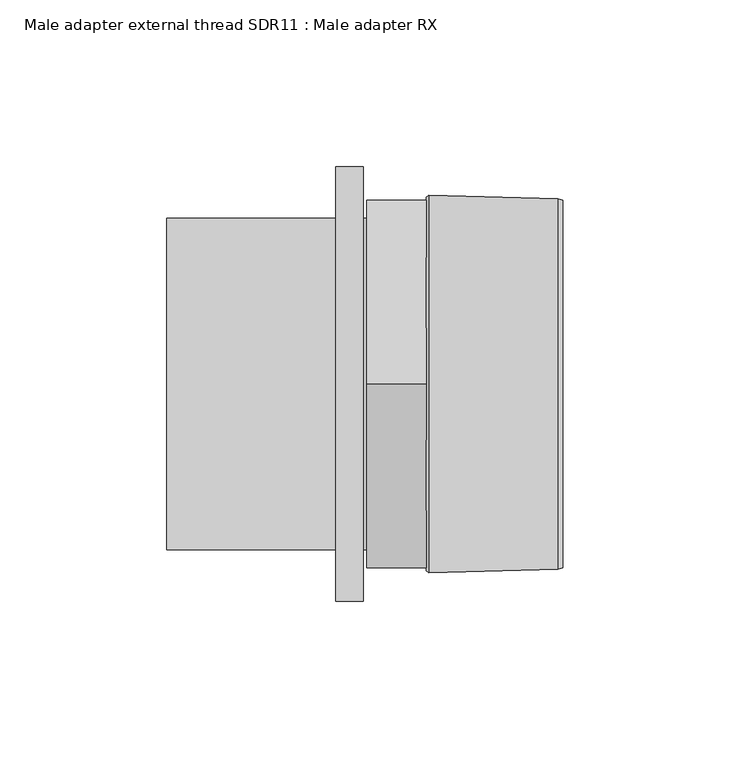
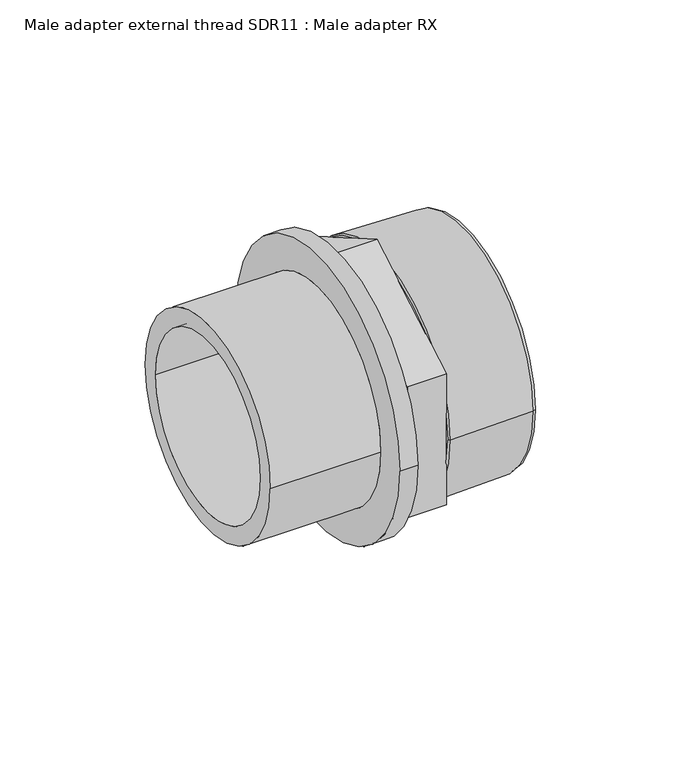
"""IFC4 building model written with IfcOpenShell, lengths in millimetres: pipe fitting geometry, Male adapter external thread SDR11 : Male adapter RX."""

import ifcopenshell
import ifcopenshell.guid

model = None  # the IFC model being written
_history = None  # IfcOwnerHistory: only IFC2X3 demands one
_inside = {}  # id of a spatial element -> (the spatial element, [elements in it])
_under = {}  # id of a project, library or spatial element -> (it, [spatial elements below it])
_declared = {}  # id of a project -> (the project, [libraries it declares])
_typed = {}  # id of a type object -> (the type object, [elements of that type])
_made_of = {}  # id of a material, layer set ... -> (it, [elements and type objects made of it])


def new_model(schema):
    """Start an empty IFC model of exactly this schema.

    Asked for "IFC4X3", IfcOpenShell would pick the latest addendum, in which some entities
    have other attributes; the version numbers below select the first issue.
    IFC2X3 requires an IfcOwnerHistory on every rooted entity: one is made here for all.
    """
    global model, _history
    if schema == "IFC4X3":
        model = ifcopenshell.file(schema_version=(4, 3, 0, 0))
    else:
        model = ifcopenshell.file(schema=schema)
    _inside.clear()
    _under.clear()
    _declared.clear()
    _typed.clear()
    _made_of.clear()
    _history = None
    if model.schema == "IFC2X3":
        org = make("IfcOrganization", Name="unknown")
        user = make(
            "IfcPersonAndOrganization",
            ThePerson=make("IfcPerson", FamilyName="unknown"),
            TheOrganization=org,
        )
        app = make(
            "IfcApplication",
            ApplicationDeveloper=org,
            Version="unknown",
            ApplicationFullName="unknown",
            ApplicationIdentifier="unknown",
        )
        _history = make(
            "IfcOwnerHistory",
            OwningUser=user,
            OwningApplication=app,
            ChangeAction="ADDED",
            CreationDate=0,
        )
    return model


def make(cls, **values):
    """One entity of the class cls with the attributes given. An attribute that is None is left unset."""
    return model.create_entity(
        cls, **{name: value for name, value in values.items() if value is not None}
    )


def rooted(cls, **values):
    """An entity with a GlobalId (a new one), such as an element, a storey or a relation."""
    return make(cls, GlobalId=ifcopenshell.guid.new(), OwnerHistory=_history, **values)


def si_unit(unit_type, name, prefix=None):
    """IfcSIUnit, for example si_unit("LENGTHUNIT", "METRE", prefix="MILLI")."""
    return make("IfcSIUnit", UnitType=unit_type, Prefix=prefix, Name=name)


def assignment(units):
    """IfcUnitAssignment: the units of a project."""
    return None if units is None else make("IfcUnitAssignment", Units=units)


def point(xyz):
    """IfcCartesianPoint."""
    return None if xyz is None else make("IfcCartesianPoint", Coordinates=xyz)


def direction(xyz):
    """IfcDirection."""
    return None if xyz is None else make("IfcDirection", DirectionRatios=xyz)


def frame(location, z_axis=None, x_axis=None):
    """IfcAxis2Placement3D, a coordinate frame: its origin and axes. An axis left out is left unset."""
    return make(
        "IfcAxis2Placement3D",
        Location=point(location),
        Axis=direction(z_axis),
        RefDirection=direction(x_axis),
    )


def origin():
    """The frame at (0, 0, 0) with its axes left unset."""
    return frame((0.0, 0.0, 0.0))


def place(relative_to, where):
    """IfcLocalPlacement: puts the frame where relative to a parent placement (None: the world)."""
    return make(
        "IfcLocalPlacement", PlacementRelTo=relative_to, RelativePlacement=where
    )


def context(
    kind, dimensions, precision=None, world=None, true_north=None, identifier=None
):
    """IfcGeometricRepresentationContext, for example the 3D "Model" context."""
    return make(
        "IfcGeometricRepresentationContext",
        ContextIdentifier=identifier,
        ContextType=kind,
        CoordinateSpaceDimension=dimensions,
        Precision=precision,
        WorldCoordinateSystem=world,
        TrueNorth=true_north,
    )


def project(units=None, contexts=None):
    """IfcProject with its units and contexts."""
    return rooted(
        "IfcProject",
        Name="project",
        RepresentationContexts=contexts,
        UnitsInContext=assignment(units),
    )


def spatial(cls, under=None, at=None, **own):
    """A site, building, storey or space (cls), placed at a placement, below another one or the project."""
    s = rooted(cls, ObjectPlacement=at, **own)
    if under is not None:
        _under.setdefault(under.id(), (under, []))[1].append(s)
    return s


def polyline(points):
    """IfcPolyline through the points."""
    return make("IfcPolyline", Points=[point(p) for p in points])


def circle_curve(where, radius):
    """IfcCircle in the frame where."""
    return make("IfcCircle", Position=where, Radius=radius)


def outline(outer, holes=None, kind="AREA"):
    """IfcArbitraryClosedProfileDef: a profile drawn as a closed curve; with holes, ...WithVoids."""
    if holes is None:
        return make("IfcArbitraryClosedProfileDef", ProfileType=kind, OuterCurve=outer)
    return make(
        "IfcArbitraryProfileDefWithVoids",
        ProfileType=kind,
        OuterCurve=outer,
        InnerCurves=holes,
    )


def extrude(swept, where, along, depth):
    """IfcExtrudedAreaSolid: the profile swept, set in the frame where, extruded along a direction by depth."""
    return make(
        "IfcExtrudedAreaSolid",
        SweptArea=swept,
        Position=where,
        ExtrudedDirection=direction(along),
        Depth=depth,
    )


def shape(context_of_items, identifier, shape_type, items):
    """IfcShapeRepresentation: the items that make up one representation, for example the "Body"."""
    return make(
        "IfcShapeRepresentation",
        ContextOfItems=context_of_items,
        RepresentationIdentifier=identifier,
        RepresentationType=shape_type,
        Items=items,
    )


def source(mapping_origin, context_of_items, identifier, shape_type, items):
    """IfcRepresentationMap: a shape defined once, which mapped items show again and again."""
    return make(
        "IfcRepresentationMap",
        MappingOrigin=mapping_origin,
        MappedRepresentation=shape(context_of_items, identifier, shape_type, items),
    )


def transform(
    local_origin,
    x_axis=None,
    y_axis=None,
    z_axis=None,
    scale=None,
    scale2=None,
    scale3=None,
    uniform=True,
):
    """IfcCartesianTransformationOperator3D, or its non-uniform kind. x_axis, y_axis, z_axis: its Axis1, 2, 3."""
    if uniform:
        return make(
            "IfcCartesianTransformationOperator3D",
            Axis1=direction(x_axis),
            Axis2=direction(y_axis),
            LocalOrigin=point(local_origin),
            Scale=scale,
            Axis3=direction(z_axis),
        )
    return make(
        "IfcCartesianTransformationOperator3DnonUniform",
        Axis1=direction(x_axis),
        Axis2=direction(y_axis),
        LocalOrigin=point(local_origin),
        Scale=scale,
        Axis3=direction(z_axis),
        Scale2=scale2,
        Scale3=scale3,
    )


def mapped(mapping_source, mapping_target):
    """IfcMappedItem: shows the shape of a source again, moved by a transform."""
    return make(
        "IfcMappedItem", MappingSource=mapping_source, MappingTarget=mapping_target
    )


def made_of(thing, what):
    """Note that an element or type object is made of a material, layer set ...; save() writes the relation."""
    if what is not None:
        _made_of.setdefault(what.id(), (what, []))[1].append(thing)
    return thing


def element(
    cls,
    number,
    at=None,
    inside=None,
    cuts=None,
    type_object=None,
    material=None,
    context=None,
    identifier="Body",
    shape_type=None,
    held_by="IfcProductDefinitionShape",
    body=None,
    shapes=None,
    **own,
):
    """One element of the class cls, such as IfcWall. Its Tag is "e" and its number.

    at: its placement. inside: the storey or other place that contains it. cuts: it is an
    opening in that element (IfcRelVoidsElement). A single representation is given by context,
    identifier, shape_type and body (its items); several are given by shapes. held_by: the class
    of the entity that holds the representations. save() writes the other relations.
    """
    e = rooted(cls, Tag="e%d" % number, ObjectPlacement=at, **own)
    if body is not None:
        shapes = [shape(context, identifier, shape_type, body)]
    if shapes is not None:
        e.Representation = make(held_by, Representations=shapes)
    if inside is not None:
        _inside.setdefault(inside.id(), (inside, []))[1].append(e)
    if cuts is not None:
        rooted(
            "IfcRelVoidsElement", RelatingBuildingElement=cuts, RelatedOpeningElement=e
        )
    if type_object is not None:
        _typed.setdefault(type_object.id(), (type_object, []))[1].append(e)
    return made_of(e, material)


def aggregate(whole, parts):
    """IfcRelAggregates: a whole, such as a stair, and the parts it consists of."""
    return rooted("IfcRelAggregates", RelatingObject=whole, RelatedObjects=parts)


def save(model, path):
    """Write the relations noted so far, then the file.

    IfcRelAggregates (storeys below a building ...), IfcRelContainedInSpatialStructure (elements
    in a storey), IfcRelDefinesByType, IfcRelAssociatesMaterial and IfcRelDeclares: one each for
    every whole, place, type object, material and project.
    """
    for whole, parts in _under.values():
        aggregate(whole, parts)
    for where, things in _inside.values():
        rooted(
            "IfcRelContainedInSpatialStructure",
            RelatedElements=things,
            RelatingStructure=where,
        )
    for kind, things in _typed.values():
        rooted("IfcRelDefinesByType", RelatedObjects=things, RelatingType=kind)
    for what, things in _made_of.values():
        rooted("IfcRelAssociatesMaterial", RelatedObjects=things, RelatingMaterial=what)
    for by, libraries in _declared.values():
        rooted("IfcRelDeclares", RelatingContext=by, RelatedDefinitions=libraries)
    model.write(path)


def plane_surface(at):
    """IfcPlane: the flat surface through the origin of the frame at, square to its z axis."""
    return make("IfcPlane", Position=at)


def cylinder_surface(at, radius):
    """IfcCylindricalSurface: all points at the distance radius from the z axis of the frame at."""
    return make("IfcCylindricalSurface", Position=at, Radius=radius)


def revolved_surface(curve, axis_point, axis_direction):
    """IfcSurfaceOfRevolution: the curve turned about the line through axis_point along axis_direction."""
    return make(
        "IfcSurfaceOfRevolution",
        SweptCurve=make("IfcArbitraryOpenProfileDef", ProfileType="CURVE", Curve=curve),
        AxisPosition=make("IfcAxis1Placement", Location=point(axis_point), Axis=direction(axis_direction)),
    )


def advanced_brep(points, edges, surfaces, faces):
    """IfcAdvancedBrep: a solid bounded by faces that lie on surfaces and meet in shared edges.

    An edge is (start, end): straight between two places in points (the first is 0);
    or (start, end, curve); or (start, end, curve, False) where it runs against its curve.
    A face is (place in surfaces, loops), or (place, loops, False) where it looks against
    its surface's normal. A loop lists edges by number (the first is 1), with a minus sign
    where the edge is run from its end to its start. The first loop is the outer one.
    """
    corners = [point(p) for p in points]
    vertices = [make("IfcVertexPoint", VertexGeometry=c) for c in corners]
    made = []
    for start, end, *more in edges:
        made.append(
            make(
                "IfcEdgeCurve",
                EdgeStart=vertices[start],
                EdgeEnd=vertices[end],
                EdgeGeometry=more[0] if more else make("IfcPolyline", Points=[corners[start], corners[end]]),
                SameSense=more[1] if len(more) > 1 else True,
            )
        )
    hull = []
    for where, loops, *sense in faces:
        bounds = []
        for j, loop in enumerate(loops):
            ring = [make("IfcOrientedEdge", EdgeElement=made[abs(k) - 1], Orientation=k > 0) for k in loop]
            bounds.append(
                make(
                    "IfcFaceOuterBound" if j == 0 else "IfcFaceBound",
                    Bound=make("IfcEdgeLoop", EdgeList=ring),
                    Orientation=True,
                )
            )
        hull.append(make("IfcAdvancedFace", Bounds=bounds, FaceSurface=surfaces[where], SameSense=sense[0] if sense else True))
    return make("IfcAdvancedBrep", Outer=make("IfcClosedShell", CfsFaces=hull))


def male_adapter_external_thread_sdr11_male_adapter_rx_6bbcd7e3(model_context):
    return source(origin(), model_context, "Body", "SolidModel", [
        advanced_brep(
        [(-9.2, 49.65, 0.0), (-9.2, -49.65, 0.0), (-59.8, -49.65, 0.0), (-59.8, 49.65, 0.0), (-1.0, 65.0, 0.0), (-1.0, -65.0, 0.0), (-9.2, -65.0, 0.0), (-9.2, 65.0, 0.0), (0.0, 49.65, 0.0), (0.0, -49.65, 0.0), (-1.0, -49.65, 0.0), (-1.0, 49.65, 0.0), (-59.8, 41.5, 0.0), (-59.8, -41.5, 0.0), (0.0, -41.5, 0.0), (0.0, 41.5, 0.0)],
        [
            (0, 1, circle_curve(frame((-9.2, 0.0, 0.0), z_axis=(-1.0, 0.0, 0.0), x_axis=(0.0, -1.0, 0.0)), 49.65)),
            (1, 2),
            (2, 3, circle_curve(frame((-59.8, 0.0, 0.0), z_axis=(1.0, 0.0, 0.0), x_axis=(0.0, -1.0, 0.0)), 49.65)),
            (3, 0),
            (4, 5, circle_curve(frame((-1.0, 0.0, 0.0), z_axis=(-1.0, 0.0, 0.0), x_axis=(0.0, -1.0, 0.0)), 65.0)),
            (5, 6),
            (6, 7, circle_curve(frame((-9.2, 0.0, 0.0), z_axis=(1.0, 0.0, 0.0), x_axis=(0.0, -1.0, 0.0)), 65.0)),
            (7, 4),
            (8, 9, circle_curve(frame((0.0, 0.0, 0.0), z_axis=(-1.0, 0.0, 0.0), x_axis=(0.0, -1.0, 0.0)), 49.65)),
            (9, 10),
            (10, 11, circle_curve(frame((-1.0, 0.0, 0.0), z_axis=(1.0, 0.0, 0.0), x_axis=(0.0, -1.0, 0.0)), 49.65)),
            (11, 8),
            (12, 13, circle_curve(frame((-59.8, 0.0, 0.0), z_axis=(-1.0, 0.0, 0.0), x_axis=(0.0, -1.0, 0.0)), 41.5)),
            (13, 14),
            (14, 15, circle_curve(frame((0.0, 0.0, 0.0), z_axis=(1.0, 0.0, 0.0), x_axis=(0.0, -1.0, 0.0)), 41.5)),
            (15, 12),
            (2, 3, circle_curve(frame((-59.8, 0.0, 0.0), z_axis=(-1.0, 0.0, 0.0), x_axis=(0.0, 1.0, 0.0)), 49.65)),
            (12, 13, circle_curve(frame((-59.8, 0.0, 0.0), z_axis=(1.0, 0.0, 0.0), x_axis=(0.0, 1.0, 0.0)), 41.5)),
            (1, 0, circle_curve(frame((-9.2, 0.0, 0.0), z_axis=(-1.0, 0.0, 0.0), x_axis=(0.0, 1.0, 0.0)), 49.65)),
            (6, 7, circle_curve(frame((-9.2, 0.0, 0.0), z_axis=(-1.0, 0.0, 0.0), x_axis=(0.0, 1.0, 0.0)), 65.0)),
            (5, 4, circle_curve(frame((-1.0, 0.0, 0.0), z_axis=(-1.0, 0.0, 0.0), x_axis=(0.0, 1.0, 0.0)), 65.0)),
            (10, 11, circle_curve(frame((-1.0, 0.0, 0.0), z_axis=(-1.0, 0.0, 0.0), x_axis=(0.0, 1.0, 0.0)), 49.65)),
            (9, 8, circle_curve(frame((0.0, 0.0, 0.0), z_axis=(-1.0, 0.0, 0.0), x_axis=(0.0, 1.0, 0.0)), 49.65)),
            (14, 15, circle_curve(frame((0.0, 0.0, 0.0), z_axis=(-1.0, 0.0, 0.0), x_axis=(0.0, 1.0, 0.0)), 41.5)),
        ],
        [
            cylinder_surface(frame((0.0, 0.0, 0.0), z_axis=(1.0, 0.0, 0.0), x_axis=(0.0, -1.0, 0.0)), 49.65),
            cylinder_surface(frame((0.0, 0.0, 0.0), z_axis=(1.0, 0.0, 0.0), x_axis=(0.0, -1.0, 0.0)), 65.0),
            revolved_surface(polyline([(0.0, -41.5, 0.0), (-59.8, -41.5, 0.0)]), (0.0, 0.0, 0.0), (1.0, 0.0, 0.0)),
            plane_surface(frame((-59.8, 0.0, 0.0), z_axis=(-1.0, 0.0, 0.0), x_axis=(0.0, 1.0, 0.0))),
            cylinder_surface(frame((0.0, 0.0, 0.0), z_axis=(1.0, 0.0, 0.0), x_axis=(0.0, 1.0, 0.0)), 49.65),
            plane_surface(frame((-9.2, 0.0, 0.0), z_axis=(-1.0, 0.0, 0.0), x_axis=(0.0, 1.0, 0.0))),
            cylinder_surface(frame((0.0, 0.0, 0.0), z_axis=(1.0, 0.0, 0.0), x_axis=(0.0, 1.0, 0.0)), 65.0),
            plane_surface(frame((-1.0, 0.0, 0.0), z_axis=(1.0, 0.0, 0.0), x_axis=(0.0, 1.0, 0.0))),
            plane_surface(frame((0.0, 0.0, 0.0), z_axis=(1.0, 0.0, 0.0), x_axis=(0.0, 1.0, 0.0))),
            revolved_surface(polyline([(0.0, 41.5, 0.0), (-59.8, 41.5, 0.0)]), (0.0, 0.0, 0.0), (1.0, 0.0, 0.0)),
        ],
        [
            (0, [[1, 2, 3, 4]]),
            (1, [[5, 6, 7, 8]]),
            (0, [[9, 10, 11, 12]]),
            (2, [[13, 14, 15, 16]]),
            (3, [[17, -3], [18, -13]]),
            (4, [[19, -4, -17, -2]]),
            (5, [[20, -7], [-19, -1]]),
            (6, [[21, -8, -20, -6]]),
            (7, [[-21, -5], [22, -11]]),
            (4, [[23, -12, -22, -10]]),
            (8, [[-23, -9], [24, -15]]),
            (9, [[-18, -16, -24, -14]]),
        ],
    ),
        advanced_brep(
        [(19.0032803, 50.0, 0.0), (19.0032803, -50.0, 0.0), (58.7, -50.0, 0.0), (58.7, 50.0, 0.0), (17.9, 48.8967197, 0.0), (17.9, -48.8967197, 0.0), (18.6406902, 56.5, 0.0), (18.6406902, -56.5, 0.0), (17.9, -56.0, 0.0), (17.9, 56.0, 0.0), (57.2000007, 55.5, 0.0), (57.2000007, -55.5, 0.0), (58.7, 55.0, 0.0), (58.7, -55.0, 0.0)],
        [
            (0, 1, circle_curve(frame((19.0032803, 0.0, 0.0), z_axis=(-1.0, 0.0, 0.0), x_axis=(0.0, -1.0, 0.0)), 50.0)),
            (1, 2),
            (2, 3, circle_curve(frame((58.7, 0.0, 0.0), z_axis=(1.0, 0.0, 0.0), x_axis=(0.0, -1.0, 0.0)), 50.0)),
            (3, 0),
            (4, 5, circle_curve(frame((17.9, 0.0, 0.0), z_axis=(-1.0, 0.0, 0.0), x_axis=(0.0, -1.0, 0.0)), 48.8967197)),
            (5, 1),
            (0, 4),
            (6, 7, circle_curve(frame((18.6406902, 0.0, 0.0), z_axis=(-1.0, 0.0, 0.0), x_axis=(0.0, -1.0, 0.0)), 56.5)),
            (7, 8),
            (8, 9, circle_curve(frame((17.9, 0.0, 0.0), z_axis=(1.0, 0.0, 0.0), x_axis=(0.0, -1.0, 0.0)), 56.0)),
            (9, 6),
            (10, 11, circle_curve(frame((57.2000007, 0.0, 0.0), z_axis=(-1.0, 0.0, 0.0), x_axis=(0.0, -1.0, 0.0)), 55.5)),
            (11, 7),
            (6, 10),
            (12, 13, circle_curve(frame((58.7, 0.0, 0.0), z_axis=(-1.0, 0.0, 0.0), x_axis=(0.0, -1.0, 0.0)), 55.0)),
            (13, 11),
            (10, 12),
            (1, 0, circle_curve(frame((19.0032803, 0.0, 0.0), z_axis=(-1.0, 0.0, 0.0), x_axis=(0.0, 1.0, 0.0)), 50.0)),
            (3, 2, circle_curve(frame((58.7, 0.0, 0.0), z_axis=(1.0, 0.0, 0.0), x_axis=(0.0, 1.0, 0.0)), 50.0)),
            (5, 4, circle_curve(frame((17.9, 0.0, 0.0), z_axis=(-1.0, 0.0, 0.0), x_axis=(0.0, 1.0, 0.0)), 48.8967197)),
            (8, 9, circle_curve(frame((17.9, 0.0, 0.0), z_axis=(-1.0, 0.0, 0.0), x_axis=(0.0, 1.0, 0.0)), 56.0)),
            (7, 6, circle_curve(frame((18.6406902, 0.0, 0.0), z_axis=(-1.0, 0.0, 0.0), x_axis=(0.0, 1.0, 0.0)), 56.5)),
            (11, 10, circle_curve(frame((57.2000007, 0.0, 0.0), z_axis=(-1.0, 0.0, 0.0), x_axis=(0.0, 1.0, 0.0)), 55.5)),
            (13, 12, circle_curve(frame((58.7, 0.0, 0.0), z_axis=(-1.0, 0.0, 0.0), x_axis=(0.0, 1.0, 0.0)), 55.0)),
        ],
        [
            revolved_surface(polyline([(58.7, -50.0, 0.0), (19.0032803, -50.0, 0.0)]), (0.0, 0.0, 0.0), (1.0, 0.0, 0.0)),
            revolved_surface(polyline([(19.0032803, -50.0, 0.0), (17.9, -48.8967197, 0.0)]), (0.0, 0.0, 0.0), (1.0, 0.0, 0.0)),
            revolved_surface(polyline([(17.9, -56.0, 0.0), (18.6406902, -56.5, 0.0)]), (0.0, 0.0, 0.0), (1.0, 0.0, 0.0)),
            revolved_surface(polyline([(18.6406902, -56.5, 0.0), (57.2000007, -55.5, 0.0)]), (0.0, 0.0, 0.0), (1.0, 0.0, 0.0)),
            revolved_surface(polyline([(57.2000007, -55.5, 0.0), (58.7, -55.0, 0.0)]), (0.0, 0.0, 0.0), (1.0, 0.0, 0.0)),
            revolved_surface(polyline([(58.7, 50.0, 0.0), (19.0032803, 50.0, 0.0)]), (0.0, 0.0, 0.0), (1.0, 0.0, 0.0)),
            revolved_surface(polyline([(19.0032803, 50.0, 0.0), (17.9, 48.8967197, 0.0)]), (0.0, 0.0, 0.0), (1.0, 0.0, 0.0)),
            plane_surface(frame((17.9, 0.0, 0.0), z_axis=(-1.0, 0.0, 0.0), x_axis=(0.0, 1.0, 0.0))),
            revolved_surface(polyline([(17.9, 56.0, 0.0), (18.6406902, 56.5, 0.0)]), (0.0, 0.0, 0.0), (1.0, 0.0, 0.0)),
            revolved_surface(polyline([(18.6406902, 56.5, 0.0), (57.2000007, 55.5, 0.0)]), (0.0, 0.0, 0.0), (1.0, 0.0, 0.0)),
            revolved_surface(polyline([(57.2000007, 55.5, 0.0), (58.7, 55.0, 0.0)]), (0.0, 0.0, 0.0), (1.0, 0.0, 0.0)),
            plane_surface(frame((58.7, 0.0, 0.0), z_axis=(1.0, 0.0, 0.0), x_axis=(0.0, 1.0, 0.0))),
        ],
        [
            (0, [[1, 2, 3, 4]]),
            (1, [[5, 6, -1, 7]]),
            (2, [[8, 9, 10, 11]]),
            (3, [[12, 13, -8, 14]]),
            (4, [[15, 16, -12, 17]]),
            (5, [[18, -4, 19, -2]]),
            (6, [[20, -7, -18, -6]]),
            (7, [[21, -10], [-20, -5]]),
            (8, [[22, -11, -21, -9]]),
            (9, [[23, -14, -22, -13]]),
            (10, [[24, -17, -23, -16]]),
            (11, [[-24, -15], [-19, -3]]),
        ],
    ),
        extrude(outline(polyline([(-55.0, 31.7542648), (0.0, 63.5085296), (55.0, 31.7542648), (55.0, -31.7542648), (0.0, -63.5085296), (-55.0, -31.7542648), (-55.0, 31.7542648)])), frame((0.0, 0.0, 0.0), z_axis=(1.0, 0.0, 0.0), x_axis=(0.0, 1.0, 0.0)), (0.0, 0.0, 1.0), 17.9),
    ])


if __name__ == "__main__":
    model = new_model("IFC4")
    model_context = context("Model", 3, world=origin())
    ifc_project = project(units=[si_unit("LENGTHUNIT", "METRE", prefix="MILLI")], contexts=[model_context])
    site = spatial("IfcSite", under=ifc_project)
    building = spatial("IfcBuilding", under=site)
    placement = place(None, origin())
    male_adapter_external_thread_sdr11_male_adapter_rx_shape = male_adapter_external_thread_sdr11_male_adapter_rx_6bbcd7e3(model_context)
    element("IfcPipeFitting", 1, ObjectType="Male adapter external thread SDR11 : Male adapter RX", at=placement, inside=building, context=model_context, shape_type="MappedRepresentation", body=[
        mapped(male_adapter_external_thread_sdr11_male_adapter_rx_shape, transform((0.0, 0.0, 0.0), x_axis=(1.0, 0.0, 0.0), y_axis=(0.0, 1.0, 0.0), z_axis=(0.0, 0.0, 1.0))),
    ])
    save(model, "model.ifc")
